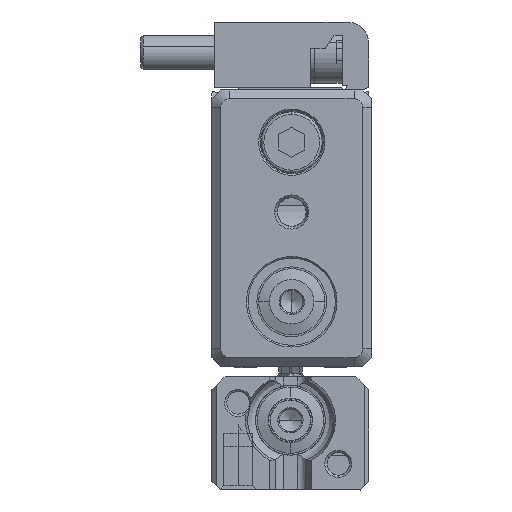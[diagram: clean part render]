
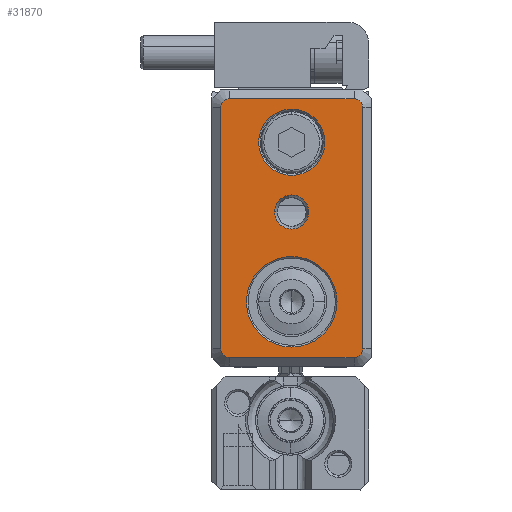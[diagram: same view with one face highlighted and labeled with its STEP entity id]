
A CAD part, left-side view. The second image highlights one B-rep face of the part: STEP entity #31870.
In plain terms, the highlighted planar face has unit normal (-1, 0, 0).
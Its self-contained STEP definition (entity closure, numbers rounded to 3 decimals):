
#29760=CARTESIAN_POINT('',(-93.638,46.3,
-79.283));
#29770=VERTEX_POINT('',#29760);
#29800=CARTESIAN_POINT('',(-93.638,45.3,
-79.283));
#29810=DIRECTION('',(1.,0.,0.));
#29820=DIRECTION('',(0.,1.,0.));
#29830=AXIS2_PLACEMENT_3D('',#29800,#29810,#29820);
#29840=CIRCLE('',#29830,1.);
#29850=CARTESIAN_POINT('',(-93.638,45.3,
-80.283));
#29860=VERTEX_POINT('',#29850);
#29870=EDGE_CURVE('',#29860,#29770,#29840,.T.);
#30770=CARTESIAN_POINT('',(-93.638,38.15,
-65.583));
#30780=DIRECTION('',(1.,0.,0.));
#30790=DIRECTION('',(0.,1.,0.));
#30800=AXIS2_PLACEMENT_3D('',#30770,#30780,#30790);
#30810=PLANE('',#30800);
#30820=CARTESIAN_POINT('',(-93.638,38.15,
-56.983));
#30830=DIRECTION('',(1.,0.,0.));
#30840=DIRECTION('',(0.,-1.,0.));
#30850=AXIS2_PLACEMENT_3D('',#30820,#30830,#30840);
#30860=CIRCLE('',#30850,5.2);
#30870=CARTESIAN_POINT('',(-93.638,32.95,
-56.983));
#30880=VERTEX_POINT('',#30870);
#30890=CARTESIAN_POINT('',(-93.638,43.35,
-56.983));
#30900=VERTEX_POINT('',#30890);
#30910=EDGE_CURVE('',#30880,#30900,#30860,.T.);
#30920=ORIENTED_EDGE('',*,*,#30910,.T.);
#30930=EDGE_CURVE('',#30900,#30880,#30860,.T.);
#30940=ORIENTED_EDGE('',*,*,#30930,.T.);
#30950=EDGE_LOOP('',(#30940,#30920));
#30960=FACE_BOUND('',#30950,.T.);
#30970=CARTESIAN_POINT('',(-93.638,38.15,
-75.283));
#30980=DIRECTION('',(-1.,0.,0.));
#30990=DIRECTION('',(0.,1.,0.));
#31000=AXIS2_PLACEMENT_3D('',#30970,#30980,#30990);
#31010=CIRCLE('',#31000,3.8);
#31020=CARTESIAN_POINT('',(-93.638,34.35,
-75.283));
#31030=VERTEX_POINT('',#31020);
#31040=CARTESIAN_POINT('',(-93.638,41.95,
-75.283));
#31050=VERTEX_POINT('',#31040);
#31060=EDGE_CURVE('',#31030,#31050,#31010,.T.);
#31070=ORIENTED_EDGE('',*,*,#31060,.F.);
#31080=EDGE_CURVE('',#31050,#31030,#31010,.T.);
#31090=ORIENTED_EDGE('',*,*,#31080,.F.);
#31100=EDGE_LOOP('',(#31090,#31070));
#31110=FACE_BOUND('',#31100,.T.);
#31120=CARTESIAN_POINT('',(-93.638,38.15,
-67.283));
#31130=DIRECTION('',(-1.,0.,0.));
#31140=DIRECTION('',(0.,1.,0.));
#31150=AXIS2_PLACEMENT_3D('',#31120,#31130,#31140);
#31160=CIRCLE('',#31150,1.961);
#31170=CARTESIAN_POINT('',(-93.638,40.111,
-67.283));
#31180=VERTEX_POINT('',#31170);
#31190=CARTESIAN_POINT('',(-93.638,36.189,
-67.283));
#31200=VERTEX_POINT('',#31190);
#31210=EDGE_CURVE('',#31180,#31200,#31160,.T.);
#31220=ORIENTED_EDGE('',*,*,#31210,.F.);
#31230=EDGE_CURVE('',#31200,#31180,#31160,.T.);
#31240=ORIENTED_EDGE('',*,*,#31230,.F.);
#31250=EDGE_LOOP('',(#31240,#31220));
#31260=FACE_BOUND('',#31250,.T.);
#31270=CARTESIAN_POINT('',(-93.638,30.,
-49.133));
#31280=DIRECTION('',(0.,0.,1.));
#31290=VECTOR('',#31280,1.);
#31300=LINE('',#31270,#31290);
#31310=CARTESIAN_POINT('',(-93.638,30.,
-79.283));
#31320=VERTEX_POINT('',#31310);
#31330=CARTESIAN_POINT('',(-93.638,30.,
-51.583));
#31340=VERTEX_POINT('',#31330);
#31350=EDGE_CURVE('',#31320,#31340,#31300,.T.);
#31360=ORIENTED_EDGE('',*,*,#31350,.T.);
#31370=CARTESIAN_POINT('',(-93.638,31.,
-79.283));
#31380=DIRECTION('',(1.,0.,0.));
#31390=DIRECTION('',(0.,1.,0.));
#31400=AXIS2_PLACEMENT_3D('',#31370,#31380,#31390);
#31410=CIRCLE('',#31400,1.);
#31420=CARTESIAN_POINT('',(-93.638,31.,
-80.283));
#31430=VERTEX_POINT('',#31420);
#31440=EDGE_CURVE('',#31320,#31430,#31410,.T.);
#31450=ORIENTED_EDGE('',*,*,#31440,.F.);
#31460=CARTESIAN_POINT('',(-93.638,46.9,
-80.283));
#31470=DIRECTION('',(0.,-1.,0.));
#31480=VECTOR('',#31470,1.);
#31490=LINE('',#31460,#31480);
#31500=EDGE_CURVE('',#29860,#31430,#31490,.T.);
#31510=ORIENTED_EDGE('',*,*,#31500,.T.);
#31520=ORIENTED_EDGE('',*,*,#29870,.F.);
#31530=CARTESIAN_POINT('',(-93.638,46.3,
-49.133));
#31540=DIRECTION('',(0.,0.,-1.));
#31550=VECTOR('',#31540,1.);
#31560=LINE('',#31530,#31550);
#31570=CARTESIAN_POINT('',(-93.638,46.3,
-51.583));
#31580=VERTEX_POINT('',#31570);
#31590=EDGE_CURVE('',#31580,#29770,#31560,.T.);
#31600=ORIENTED_EDGE('',*,*,#31590,.T.);
#31610=CARTESIAN_POINT('',(-93.638,45.3,
-51.583));
#31620=DIRECTION('',(1.,0.,0.));
#31630=DIRECTION('',(0.,1.,0.));
#31640=AXIS2_PLACEMENT_3D('',#31610,#31620,#31630);
#31650=CIRCLE('',#31640,1.);
#31660=CARTESIAN_POINT('',(-93.638,45.3,
-50.583));
#31670=VERTEX_POINT('',#31660);
#31680=EDGE_CURVE('',#31580,#31670,#31650,.T.);
#31690=ORIENTED_EDGE('',*,*,#31680,.F.);
#31700=CARTESIAN_POINT('',(-93.638,46.9,
-50.583));
#31710=DIRECTION('',(0.,1.,0.));
#31720=VECTOR('',#31710,1.);
#31730=LINE('',#31700,#31720);
#31740=CARTESIAN_POINT('',(-93.638,31.,
-50.583));
#31750=VERTEX_POINT('',#31740);
#31760=EDGE_CURVE('',#31750,#31670,#31730,.T.);
#31770=ORIENTED_EDGE('',*,*,#31760,.T.);
#31780=CARTESIAN_POINT('',(-93.638,31.,
-51.583));
#31790=DIRECTION('',(1.,0.,0.));
#31800=DIRECTION('',(0.,1.,0.));
#31810=AXIS2_PLACEMENT_3D('',#31780,#31790,#31800);
#31820=CIRCLE('',#31810,1.);
#31830=EDGE_CURVE('',#31750,#31340,#31820,.T.);
#31840=ORIENTED_EDGE('',*,*,#31830,.F.);
#31850=EDGE_LOOP('',(#31840,#31770,#31690,#31600,#31520,#31510,#31450,
#31360));
#31860=FACE_OUTER_BOUND('',#31850,.T.);
#31870=ADVANCED_FACE('',(#30960,#31110,#31260,#31860),#30810,.F.);
